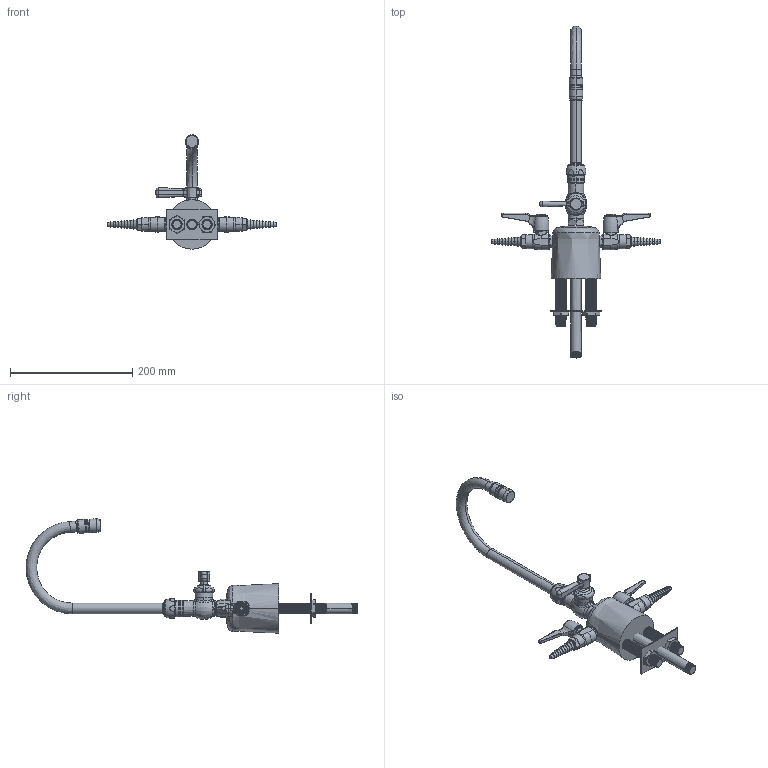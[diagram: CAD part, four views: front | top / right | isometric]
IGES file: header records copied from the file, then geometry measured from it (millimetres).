
Start section:  PTC IGES file: LCF1-CB-A3A2.igs
Global section: file name: LCF1-CB-A3A2.igs; native system: Creo Parametric by PTC Inc.; preprocessor: 2014500; author: usch_engrender; organization: Unknown; date: 20160208.112854; units: inch
Bounding box: 276.86 x 542.32 x 186.79 mm (x, y, z)
Surface area: 134658.1 mm2 (no closed solid volume)
Topology: 0 solids, 88 shells, 980 faces, 2799 edges, 1846 vertices
Faces by surface type: revolution 624, bspline 356
